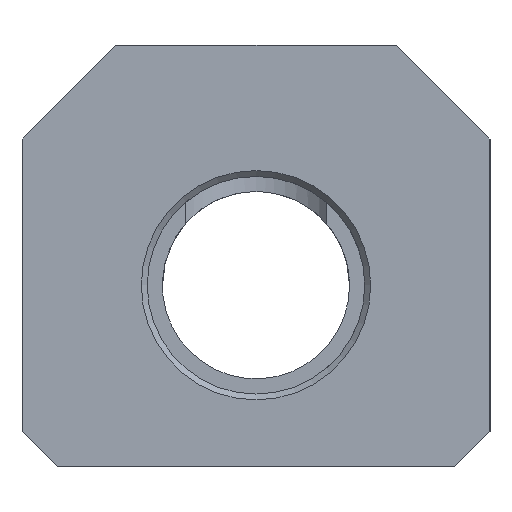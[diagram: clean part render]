
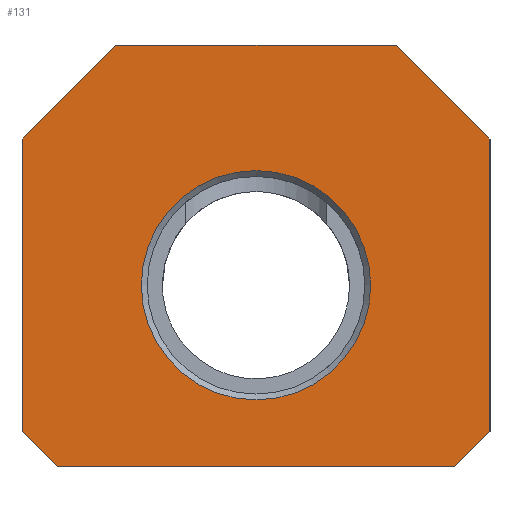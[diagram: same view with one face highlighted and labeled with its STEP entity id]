
A CAD part, left-side view. The second image highlights one B-rep face of the part: STEP entity #131.
In plain terms, the highlighted planar face has unit normal (-1, 0, 0).
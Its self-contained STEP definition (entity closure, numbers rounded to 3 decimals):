
#131=ADVANCED_FACE('',(#224,#225),#156,.F.);
#156=PLANE('',#537);
#168=LINE('',#722,#196);
#169=LINE('',#725,#197);
#170=LINE('',#727,#198);
#171=LINE('',#729,#199);
#172=LINE('',#731,#200);
#173=LINE('',#733,#201);
#174=LINE('',#735,#202);
#175=LINE('',#737,#203);
#196=VECTOR('',#591,1.);
#197=VECTOR('',#592,1.);
#198=VECTOR('',#593,1.);
#199=VECTOR('',#594,1.);
#200=VECTOR('',#595,1.);
#201=VECTOR('',#596,1.);
#202=VECTOR('',#597,1.);
#203=VECTOR('',#598,1.);
#224=FACE_BOUND('',#261,.T.);
#225=FACE_BOUND('',#262,.T.);
#261=EDGE_LOOP('',(#307));
#262=EDGE_LOOP('',(#308,#309,#310,#311,#312,#313,#314,#315));
#307=ORIENTED_EDGE('',*,*,#463,.T.);
#308=ORIENTED_EDGE('',*,*,#464,.F.);
#309=ORIENTED_EDGE('',*,*,#465,.T.);
#310=ORIENTED_EDGE('',*,*,#466,.F.);
#311=ORIENTED_EDGE('',*,*,#467,.T.);
#312=ORIENTED_EDGE('',*,*,#468,.F.);
#313=ORIENTED_EDGE('',*,*,#469,.T.);
#314=ORIENTED_EDGE('',*,*,#470,.F.);
#315=ORIENTED_EDGE('',*,*,#471,.T.);
#419=VERTEX_POINT('',#721);
#420=VERTEX_POINT('',#723);
#421=VERTEX_POINT('',#724);
#422=VERTEX_POINT('',#726);
#423=VERTEX_POINT('',#728);
#424=VERTEX_POINT('',#730);
#425=VERTEX_POINT('',#732);
#426=VERTEX_POINT('',#734);
#427=VERTEX_POINT('',#736);
#463=EDGE_CURVE('',#419,#419,#519,.T.);
#464=EDGE_CURVE('',#420,#421,#168,.T.);
#465=EDGE_CURVE('',#420,#422,#169,.T.);
#466=EDGE_CURVE('',#423,#422,#170,.T.);
#467=EDGE_CURVE('',#423,#424,#171,.T.);
#468=EDGE_CURVE('',#425,#424,#172,.T.);
#469=EDGE_CURVE('',#425,#426,#173,.T.);
#470=EDGE_CURVE('',#427,#426,#174,.T.);
#471=EDGE_CURVE('',#427,#421,#175,.T.);
#519=CIRCLE('',#536,9.8);
#536=AXIS2_PLACEMENT_3D('',#720,#589,#590);
#537=AXIS2_PLACEMENT_3D('',#738,#599,#600);
#589=DIRECTION('',(1.,0.,0.));
#590=DIRECTION('',(0.,0.,-1.));
#591=DIRECTION('',(0.,0.,1.));
#592=DIRECTION('',(0.,-0.707,-0.707));
#593=DIRECTION('',(0.,1.,0.));
#594=DIRECTION('',(0.,-0.707,0.707));
#595=DIRECTION('',(0.,0.,-1.));
#596=DIRECTION('',(0.,0.707,0.707));
#597=DIRECTION('',(0.,-1.,0.));
#598=DIRECTION('',(0.,0.707,-0.707));
#599=DIRECTION('',(1.,0.,0.));
#600=DIRECTION('',(0.,0.,-1.));
#720=CARTESIAN_POINT('',(-155.,0.,0.));
#721=CARTESIAN_POINT('',(-155.,0.,-9.8));
#722=CARTESIAN_POINT('',(-155.,20.,-15.5));
#723=CARTESIAN_POINT('',(-155.,20.,-12.5));
#724=CARTESIAN_POINT('',(-155.,20.,12.5));
#725=CARTESIAN_POINT('',(-155.,17.,-15.5));
#726=CARTESIAN_POINT('',(-155.,17.,-15.5));
#727=CARTESIAN_POINT('',(-155.,-20.,-15.5));
#728=CARTESIAN_POINT('',(-155.,-17.,-15.5));
#729=CARTESIAN_POINT('',(-155.,-20.,-12.5));
#730=CARTESIAN_POINT('',(-155.,-20.,-12.5));
#731=CARTESIAN_POINT('',(-155.,-20.,20.5));
#732=CARTESIAN_POINT('',(-155.,-20.,12.5));
#733=CARTESIAN_POINT('',(-155.,-12.,20.5));
#734=CARTESIAN_POINT('',(-155.,-12.,20.5));
#735=CARTESIAN_POINT('',(-155.,0.,20.5));
#736=CARTESIAN_POINT('',(-155.,12.,20.5));
#737=CARTESIAN_POINT('',(-155.,20.,12.5));
#738=CARTESIAN_POINT('',(-155.,0.,0.));
